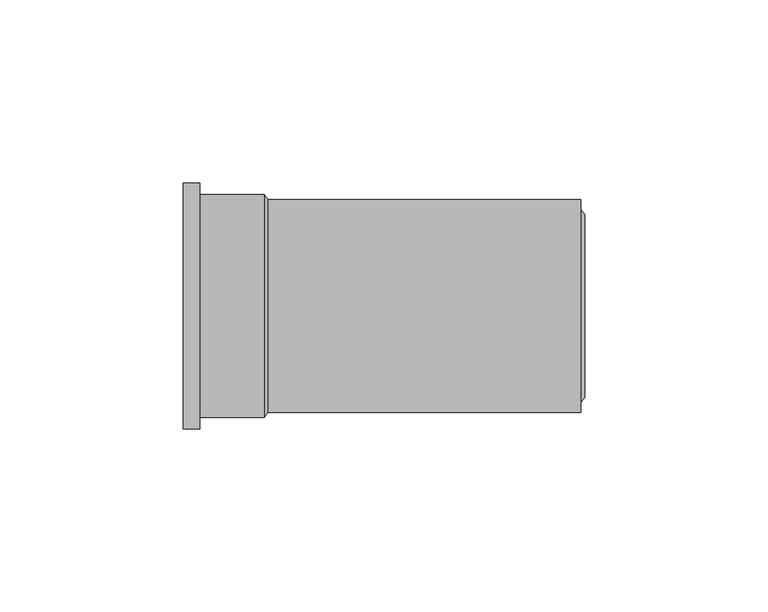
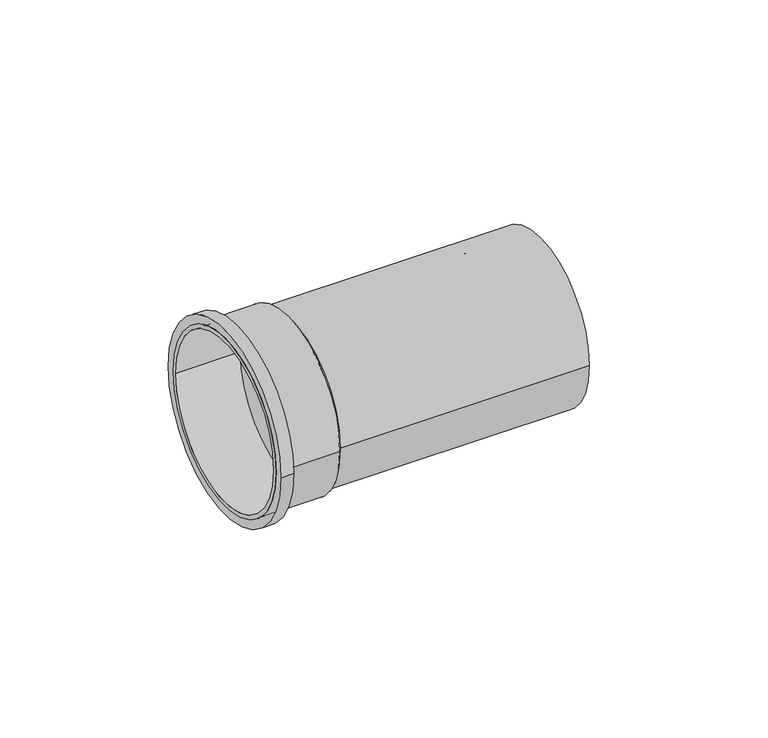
"""IFC4 building model written with IfcOpenShell, lengths in millimetres: pipe fitting geometry, Superdrain SK Connection to HT : Superdrain SK Connection to HT."""

from ifc_helpers import new_model, si_unit, point, frame, origin, origin_2d, place, context, project, spatial, polyline, circle_curve, trimmed, segment, composite_curve, outline, extrude, source, transform, mapped, element, save
from ifc_brep_helpers import plane_surface, revolved_surface, advanced_brep


def pipe_fitting_78887751(model_context):
    return source(origin(), model_context, "Body", "SolidModel", [
        extrude(outline(composite_curve([segment(trimmed(circle_curve(origin_2d(), 26.25), [point((-26.25, 0.0))], [point((26.25, 0.0))], False, "CARTESIAN"), True, "CONTINUOUS"), segment(trimmed(circle_curve(origin_2d(), 26.25), [point((26.25, 0.0))], [point((-26.25, 0.0))], False, "CARTESIAN"), True, "CONTINUOUS")], self_intersect=False), holes=[composite_curve([segment(trimmed(circle_curve(origin_2d(), 25.0), [point((-25.0, 0.0))], [point((25.0, 0.0))], True, "CARTESIAN"), True, "CONTINUOUS"), segment(trimmed(circle_curve(origin_2d(), 25.0), [point((25.0, 0.0))], [point((-25.0, 0.0))], True, "CARTESIAN"), True, "CONTINUOUS")], self_intersect=False)]), frame((18.0, 0.0, 0.0), z_axis=(1.0, 0.0, 0.0), x_axis=(0.0, 1.0, 0.0)), (0.0, 0.0, 1.0), 22.0),
        extrude(outline(composite_curve([segment(trimmed(circle_curve(origin_2d(), 27.5625), [point((-27.5625, 0.0))], [point((27.5625, 0.0))], False, "CARTESIAN"), True, "CONTINUOUS"), segment(trimmed(circle_curve(origin_2d(), 27.5625), [point((27.5625, 0.0))], [point((-27.5625, 0.0))], False, "CARTESIAN"), True, "CONTINUOUS")], self_intersect=False), holes=[composite_curve([segment(trimmed(circle_curve(origin_2d(), 25.0), [point((-25.0, 0.0))], [point((25.0, 0.0))], True, "CARTESIAN"), True, "CONTINUOUS"), segment(trimmed(circle_curve(origin_2d(), 25.0), [point((25.0, 0.0))], [point((-25.0, 0.0))], True, "CARTESIAN"), True, "CONTINUOUS")], self_intersect=False)]), frame((18.0, 0.0, 0.0), z_axis=(1.0, 0.0, 0.0), x_axis=(0.0, 1.0, 0.0)), (0.0, 0.0, 1.0), 4.4),
        advanced_brep(
        [(41.0, -25.0, 0.0), (41.0, 25.0, 0.0), (40.0, -26.25, 0.0), (40.0, 26.25, 0.0)],
        [
            (0, 1, circle_curve(frame((41.0, 0.0, 0.0), z_axis=(1.0, 0.0, 0.0), x_axis=(0.0, -1.0, 0.0)), 25.0)),
            (1, 0, circle_curve(frame((41.0, 0.0, 0.0), z_axis=(1.0, 0.0, 0.0), x_axis=(0.0, 1.0, 0.0)), 25.0)),
            (2, 3, circle_curve(frame((40.0, 0.0, 0.0), z_axis=(-1.0, 0.0, 0.0), x_axis=(0.0, 1.0, 0.0)), 26.25)),
            (3, 2, circle_curve(frame((40.0, 0.0, 0.0), z_axis=(-1.0, 0.0, 0.0), x_axis=(0.0, -1.0, 0.0)), 26.25)),
            (3, 1),
            (0, 2),
        ],
        [
            plane_surface(frame((41.0, 0.0, 0.0), z_axis=(1.0, 0.0, 0.0), x_axis=(0.0, 0.0, -1.0))),
            plane_surface(frame((40.0, 0.0, 0.0), z_axis=(-1.0, 0.0, 0.0), x_axis=(0.0, 0.0, -1.0))),
            revolved_surface(polyline([(41.0, -25.0, 0.0), (40.0, -26.25, 0.0)]), (61.0, 0.0, 0.0), (-1.0, 0.0, 0.0)),
            revolved_surface(polyline([(41.0, 25.0, 0.0), (40.0, 26.25, 0.0)]), (61.0, 0.0, 0.0), (-1.0, 0.0, 0.0)),
        ],
        [
            (0, [[1, 2]]),
            (1, [[3, 4]]),
            (2, [[-4, 5, -1, 6]]),
            (3, [[-3, -6, -2, -5]]),
        ],
    ),
        extrude(outline(composite_curve([segment(trimmed(circle_curve(origin_2d(), 30.45), [point((-30.45, 0.0))], [point((30.45, 0.0))], False, "CARTESIAN"), True, "CONTINUOUS"), segment(trimmed(circle_curve(origin_2d(), 30.45), [point((30.45, 0.0))], [point((-30.45, 0.0))], False, "CARTESIAN"), True, "CONTINUOUS")], self_intersect=False), holes=[composite_curve([segment(trimmed(circle_curve(origin_2d(), 29.0), [point((-29.0, 0.0))], [point((29.0, 0.0))], True, "CARTESIAN"), True, "CONTINUOUS"), segment(trimmed(circle_curve(origin_2d(), 29.0), [point((29.0, 0.0))], [point((-29.0, 0.0))], True, "CARTESIAN"), True, "CONTINUOUS")], self_intersect=False)]), frame((-68.4, 0.0, 0.0), z_axis=(1.0, 0.0, 0.0), x_axis=(0.0, 1.0, 0.0)), (0.0, 0.0, 1.0), 22.0),
        extrude(outline(composite_curve([segment(trimmed(circle_curve(origin_2d(), 33.495), [point((-33.495, 0.0))], [point((33.495, 0.0))], False, "CARTESIAN"), True, "CONTINUOUS"), segment(trimmed(circle_curve(origin_2d(), 33.495), [point((33.495, 0.0))], [point((-33.495, 0.0))], False, "CARTESIAN"), True, "CONTINUOUS")], self_intersect=False), holes=[composite_curve([segment(trimmed(circle_curve(origin_2d(), 29.0), [point((-29.0, 0.0))], [point((29.0, 0.0))], True, "CARTESIAN"), True, "CONTINUOUS"), segment(trimmed(circle_curve(origin_2d(), 29.0), [point((29.0, 0.0))], [point((-29.0, 0.0))], True, "CARTESIAN"), True, "CONTINUOUS")], self_intersect=False)]), frame((-68.4, 0.0, 0.0), z_axis=(1.0, 0.0, 0.0), x_axis=(0.0, 1.0, 0.0)), (0.0, 0.0, 1.0), 4.4),
        advanced_brep(
        [(-45.4, -29.0, 0.0), (-45.4, 29.0, 0.0), (-46.4, -30.45, 0.0), (-46.4, 30.45, 0.0)],
        [
            (0, 1, circle_curve(frame((-45.4, 0.0, 0.0), z_axis=(1.0, 0.0, 0.0), x_axis=(0.0, -1.0, 0.0)), 29.0)),
            (1, 0, circle_curve(frame((-45.4, 0.0, 0.0), z_axis=(1.0, 0.0, 0.0), x_axis=(0.0, 1.0, 0.0)), 29.0)),
            (2, 3, circle_curve(frame((-46.4, 0.0, 0.0), z_axis=(-1.0, 0.0, 0.0), x_axis=(0.0, 1.0, 0.0)), 30.45)),
            (3, 2, circle_curve(frame((-46.4, 0.0, 0.0), z_axis=(-1.0, 0.0, 0.0), x_axis=(0.0, -1.0, 0.0)), 30.45)),
            (3, 1),
            (0, 2),
        ],
        [
            plane_surface(frame((-45.4, 0.0, 0.0), z_axis=(1.0, 0.0, 0.0), x_axis=(0.0, 0.0, -1.0))),
            plane_surface(frame((-46.4, 0.0, 0.0), z_axis=(-1.0, 0.0, 0.0), x_axis=(0.0, 0.0, -1.0))),
            revolved_surface(polyline([(-45.4, -28.999999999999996, 0.0), (-46.4, -30.45, 0.0)]), (-25.4, 0.0, 0.0), (-1.0, 0.0, 0.0)),
            revolved_surface(polyline([(-45.4, 28.999999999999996, 0.0), (-46.4, 30.45, 0.0)]), (-25.4, 0.0, 0.0), (-1.0, 0.0, 0.0)),
        ],
        [
            (0, [[1, 2]]),
            (1, [[3, 4]]),
            (2, [[-4, 5, -1, 6]]),
            (3, [[-3, -6, -2, -5]]),
        ],
    ),
        extrude(outline(composite_curve([segment(trimmed(circle_curve(origin_2d(), 29.0), [point((-29.0, 0.0))], [point((29.0, 0.0))], False, "CARTESIAN"), True, "CONTINUOUS"), segment(trimmed(circle_curve(origin_2d(), 29.0), [point((29.0, 0.0))], [point((-29.0, 0.0))], False, "CARTESIAN"), True, "CONTINUOUS")], self_intersect=False)), frame((-46.4, 0.0, 0.0), z_axis=(1.0, 0.0, 0.0), x_axis=(0.0, 1.0, 0.0)), (0.0, 0.0, 1.0), 86.4),
    ])


if __name__ == "__main__":
    model = new_model("IFC4")
    model_context = context("Model", 3, world=origin())
    ifc_project = project(units=[si_unit("LENGTHUNIT", "METRE", prefix="MILLI")], contexts=[model_context])
    site = spatial("IfcSite", under=ifc_project)
    building = spatial("IfcBuilding", under=site)
    placement = place(None, origin())
    pipe_fitting_shape = pipe_fitting_78887751(model_context)
    element("IfcPipeFitting", 1, ObjectType="Superdrain SK Connection to HT : Superdrain SK Connection to HT", at=placement, inside=building, context=model_context, shape_type="MappedRepresentation", body=[
        mapped(pipe_fitting_shape, transform((0.0, 0.0, 0.0), x_axis=(1.0, 0.0, 0.0), y_axis=(0.0, 1.0, 0.0), z_axis=(0.0, 0.0, 1.0))),
    ])
    save(model, "model.ifc")
